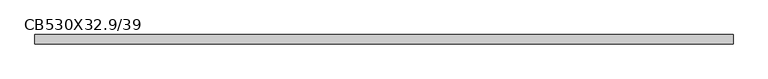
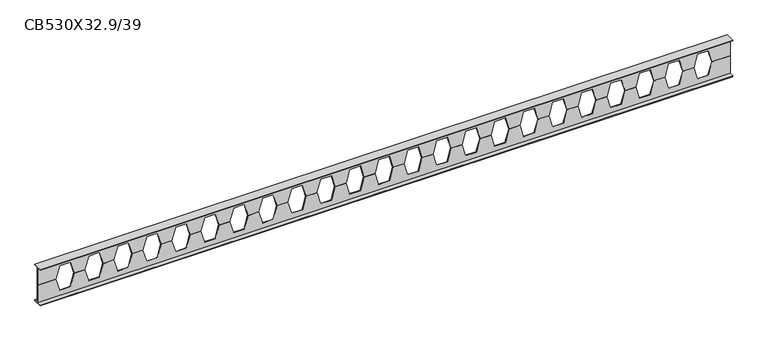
"""IFC4 building model written with IfcOpenShell, lengths in millimetres: beam geometry, Poutre alvéolaire : CB530X32.9/39."""

from ifc_helpers import new_model, si_unit, origin, place, context, project, spatial, faceted_brep, source, transform, mapped, element, save


def cb530x32_9_39_fc9b2e57(model_context):
    return source(origin(), model_context, "Body", "Brep", [
        faceted_brep([(4794.5, 64.0, -255.8), (4794.5, 3.25, -255.8), (4794.5, 3.25, 0.0), (4794.5, -3.25, 0.0), (4794.5, -3.25, -255.8), (4794.5, -64.0, -255.8), (4794.5, -64.0, -266.5), (4794.5, 64.0, -266.5), (-4794.5, 3.25, -255.8), (-4794.5, 64.0, -255.8), (-4794.5, 64.0, -266.5), (-4794.5, -64.0, -266.5), (-4794.5, -64.0, -255.8), (-4794.5, -3.25, -255.8), (-4794.5, -3.25, 0.0), (-4794.5, 3.25, 0.0), (-4543.4, 3.25, 0.0), (-4492.6, 3.25, -180.0), (-4342.6, 3.25, -180.0), (-4291.8, 3.25, 0.0), (-4141.8, 3.25, 0.0), (-4091.0, 3.25, -180.0), (-3941.0, 3.25, -180.0), (-3890.2, 3.25, 0.0), (-3740.2, 3.25, 0.0), (-3689.4, 3.25, -180.0), (-3539.4, 3.25, -180.0), (-3488.6, 3.25, 0.0), (-3338.6, 3.25, 0.0), (-3287.8, 3.25, -180.0), (-3137.8, 3.25, -180.0), (-3087.0, 3.25, 0.0), (-2937.0, 3.25, 0.0), (-2886.2, 3.25, -180.0), (-2736.2, 3.25, -180.0), (-2685.4, 3.25, 0.0), (-2535.4, 3.25, 0.0), (-2484.6, 3.25, -180.0), (-2334.6, 3.25, -180.0), (-2283.8, 3.25, 0.0), (-2133.8, 3.25, 0.0), (-2083.0, 3.25, -180.0), (-1933.0, 3.25, -180.0), (-1882.2, 3.25, 0.0), (-1732.2, 3.25, 0.0), (-1681.4, 3.25, -180.0), (-1531.4, 3.25, -180.0), (-1480.6, 3.25, 0.0), (-1330.6, 3.25, 0.0), (-1279.8, 3.25, -180.0), (-1129.8, 3.25, -180.0), (-1079.0, 3.25, 0.0), (-929.0, 3.25, 0.0), (-878.2, 3.25, -180.0), (-728.2, 3.25, -180.0), (-677.4, 3.25, 0.0), (-527.4, 3.25, 0.0), (-476.6, 3.25, -180.0), (-326.6, 3.25, -180.0), (-275.8, 3.25, 0.0), (-125.8, 3.25, 0.0), (-75.0, 3.25, -180.0), (75.0, 3.25, -180.0), (125.8, 3.25, 0.0), (275.8, 3.25, 0.0), (326.6, 3.25, -180.0), (476.6, 3.25, -180.0), (527.4, 3.25, 0.0), (677.4, 3.25, 0.0), (728.2, 3.25, -180.0), (878.2, 3.25, -180.0), (929.0, 3.25, 0.0), (1079.0, 3.25, 0.0), (1129.8, 3.25, -180.0), (1279.8, 3.25, -180.0), (1330.6, 3.25, 0.0), (1480.6, 3.25, 0.0), (1531.4, 3.25, -180.0), (1681.4, 3.25, -180.0), (1732.2, 3.25, 0.0), (1882.2, 3.25, 0.0), (1933.0, 3.25, -180.0), (2083.0, 3.25, -180.0), (2133.8, 3.25, 0.0), (2283.8, 3.25, 0.0), (2334.6, 3.25, -180.0), (2484.6, 3.25, -180.0), (2535.4, 3.25, 0.0), (2685.4, 3.25, 0.0), (2736.2, 3.25, -180.0), (2886.2, 3.25, -180.0), (2937.0, 3.25, 0.0), (3087.0, 3.25, 0.0), (3137.8, 3.25, -180.0), (3287.8, 3.25, -180.0), (3338.6, 3.25, 0.0), (3488.6, 3.25, 0.0), (3539.4, 3.25, -180.0), (3689.4, 3.25, -180.0), (3740.2, 3.25, 0.0), (3890.2, 3.25, 0.0), (3941.0, 3.25, -180.0), (4091.0, 3.25, -180.0), (4141.8, 3.25, 0.0), (4291.8, 3.25, 0.0), (4342.6, 3.25, -180.0), (4492.6, 3.25, -180.0), (4543.4, 3.25, 0.0), (4543.4, -3.25, 0.0), (-4543.4, -3.25, 0.0), (-4141.8, -3.25, 0.0), (-4291.8, -3.25, 0.0), (-3890.2, -3.25, 0.0), (-3740.2, -3.25, 0.0), (4291.8, -3.25, 0.0), (4141.8, -3.25, 0.0), (-3488.6, -3.25, 0.0), (-3338.6, -3.25, 0.0), (-3087.0, -3.25, 0.0), (-2937.0, -3.25, 0.0), (-2685.4, -3.25, 0.0), (-2535.4, -3.25, 0.0), (-2283.8, -3.25, 0.0), (-2133.8, -3.25, 0.0), (-1882.2, -3.25, 0.0), (-1732.2, -3.25, 0.0), (-1480.6, -3.25, 0.0), (-1330.6, -3.25, 0.0), (-1079.0, -3.25, 0.0), (-929.0, -3.25, 0.0), (-677.4, -3.25, 0.0), (-527.4, -3.25, 0.0), (-275.8, -3.25, 0.0), (-125.8, -3.25, 0.0), (125.8, -3.25, 0.0), (275.8, -3.25, 0.0), (527.4, -3.25, 0.0), (677.4, -3.25, 0.0), (929.0, -3.25, 0.0), (1079.0, -3.25, 0.0), (1330.6, -3.25, 0.0), (1480.6, -3.25, 0.0), (1732.2, -3.25, 0.0), (1882.2, -3.25, 0.0), (2133.8, -3.25, 0.0), (2283.8, -3.25, 0.0), (2535.4, -3.25, 0.0), (2685.4, -3.25, 0.0), (2937.0, -3.25, 0.0), (3087.0, -3.25, 0.0), (3338.6, -3.25, 0.0), (3488.6, -3.25, 0.0), (3740.2, -3.25, 0.0), (3890.2, -3.25, 0.0), (4492.6, -3.25, -180.0), (4342.6, -3.25, -180.0), (4091.0, -3.25, -180.0), (3941.0, -3.25, -180.0), (3689.4, -3.25, -180.0), (3539.4, -3.25, -180.0), (3287.8, -3.25, -180.0), (3137.8, -3.25, -180.0), (2886.2, -3.25, -180.0), (2736.2, -3.25, -180.0), (2484.6, -3.25, -180.0), (2334.6, -3.25, -180.0), (2083.0, -3.25, -180.0), (1933.0, -3.25, -180.0), (1681.4, -3.25, -180.0), (1531.4, -3.25, -180.0), (1279.8, -3.25, -180.0), (1129.8, -3.25, -180.0), (878.2, -3.25, -180.0), (728.2, -3.25, -180.0), (476.6, -3.25, -180.0), (326.6, -3.25, -180.0), (75.0, -3.25, -180.0), (-75.0, -3.25, -180.0), (-326.6, -3.25, -180.0), (-476.6, -3.25, -180.0), (-728.2, -3.25, -180.0), (-878.2, -3.25, -180.0), (-1129.8, -3.25, -180.0), (-1279.8, -3.25, -180.0), (-1531.4, -3.25, -180.0), (-1681.4, -3.25, -180.0), (-1933.0, -3.25, -180.0), (-2083.0, -3.25, -180.0), (-2334.6, -3.25, -180.0), (-2484.6, -3.25, -180.0), (-2736.2, -3.25, -180.0), (-2886.2, -3.25, -180.0), (-3137.8, -3.25, -180.0), (-3287.8, -3.25, -180.0), (-3539.4, -3.25, -180.0), (-3689.4, -3.25, -180.0), (-3941.0, -3.25, -180.0), (-4091.0, -3.25, -180.0), (-4342.6, -3.25, -180.0), (-4492.6, -3.25, -180.0)], [[[0, 1, 2, 3, 4, 5, 6, 7]], [[8, 9, 10, 11, 12, 13, 14, 15]], [[1, 0, 9, 8]], [[2, 1, 8, 15, 16, 17, 18, 19, 20, 21, 22, 23, 24, 25, 26, 27, 28, 29, 30, 31, 32, 33, 34, 35, 36, 37, 38, 39, 40, 41, 42, 43, 44, 45, 46, 47, 48, 49, 50, 51, 52, 53, 54, 55, 56, 57, 58, 59, 60, 61, 62, 63, 64, 65, 66, 67, 68, 69, 70, 71, 72, 73, 74, 75, 76, 77, 78, 79, 80, 81, 82, 83, 84, 85, 86, 87, 88, 89, 90, 91, 92, 93, 94, 95, 96, 97, 98, 99, 100, 101, 102, 103, 104, 105, 106, 107]], [[3, 2, 107, 108]], [[15, 14, 109, 16]], [[110, 20, 19, 111]], [[23, 112, 113, 24]], [[114, 104, 103, 115]], [[27, 116, 117, 28]], [[31, 118, 119, 32]], [[35, 120, 121, 36]], [[39, 122, 123, 40]], [[43, 124, 125, 44]], [[47, 126, 127, 48]], [[51, 128, 129, 52]], [[55, 130, 131, 56]], [[59, 132, 133, 60]], [[63, 134, 135, 64]], [[67, 136, 137, 68]], [[71, 138, 139, 72]], [[75, 140, 141, 76]], [[79, 142, 143, 80]], [[83, 144, 145, 84]], [[87, 146, 147, 88]], [[91, 148, 149, 92]], [[95, 150, 151, 96]], [[99, 152, 153, 100]], [[4, 3, 108, 154, 155, 114, 115, 156, 157, 153, 152, 158, 159, 151, 150, 160, 161, 149, 148, 162, 163, 147, 146, 164, 165, 145, 144, 166, 167, 143, 142, 168, 169, 141, 140, 170, 171, 139, 138, 172, 173, 137, 136, 174, 175, 135, 134, 176, 177, 133, 132, 178, 179, 131, 130, 180, 181, 129, 128, 182, 183, 127, 126, 184, 185, 125, 124, 186, 187, 123, 122, 188, 189, 121, 120, 190, 191, 119, 118, 192, 193, 117, 116, 194, 195, 113, 112, 196, 197, 110, 111, 198, 199, 109, 14, 13]], [[5, 4, 13, 12]], [[6, 5, 12, 11]], [[7, 6, 11, 10]], [[0, 7, 10, 9]], [[197, 21, 20, 110]], [[21, 197, 196, 22]], [[22, 196, 112, 23]], [[155, 105, 104, 114]], [[105, 155, 154, 106]], [[106, 154, 108, 107]], [[199, 17, 16, 109]], [[17, 199, 198, 18]], [[18, 198, 111, 19]], [[195, 25, 24, 113]], [[25, 195, 194, 26]], [[26, 194, 116, 27]], [[193, 29, 28, 117]], [[29, 193, 192, 30]], [[30, 192, 118, 31]], [[191, 33, 32, 119]], [[33, 191, 190, 34]], [[34, 190, 120, 35]], [[189, 37, 36, 121]], [[37, 189, 188, 38]], [[38, 188, 122, 39]], [[187, 41, 40, 123]], [[41, 187, 186, 42]], [[42, 186, 124, 43]], [[185, 45, 44, 125]], [[45, 185, 184, 46]], [[46, 184, 126, 47]], [[183, 49, 48, 127]], [[49, 183, 182, 50]], [[50, 182, 128, 51]], [[181, 53, 52, 129]], [[53, 181, 180, 54]], [[54, 180, 130, 55]], [[179, 57, 56, 131]], [[57, 179, 178, 58]], [[58, 178, 132, 59]], [[177, 61, 60, 133]], [[61, 177, 176, 62]], [[62, 176, 134, 63]], [[175, 65, 64, 135]], [[65, 175, 174, 66]], [[66, 174, 136, 67]], [[173, 69, 68, 137]], [[69, 173, 172, 70]], [[70, 172, 138, 71]], [[171, 73, 72, 139]], [[73, 171, 170, 74]], [[74, 170, 140, 75]], [[169, 77, 76, 141]], [[77, 169, 168, 78]], [[78, 168, 142, 79]], [[167, 81, 80, 143]], [[81, 167, 166, 82]], [[82, 166, 144, 83]], [[165, 85, 84, 145]], [[85, 165, 164, 86]], [[86, 164, 146, 87]], [[163, 89, 88, 147]], [[89, 163, 162, 90]], [[90, 162, 148, 91]], [[161, 93, 92, 149]], [[93, 161, 160, 94]], [[94, 160, 150, 95]], [[159, 97, 96, 151]], [[97, 159, 158, 98]], [[98, 158, 152, 99]], [[157, 101, 100, 153]], [[101, 157, 156, 102]], [[102, 156, 115, 103]]]),
        faceted_brep([(4794.5, 2.9, 0.0), (4794.5, 2.9, 256.0), (4794.5, 63.5, 256.0), (4794.5, 63.5, 264.5), (4794.5, -63.5, 264.5), (4794.5, -63.5, 256.0), (4794.5, -2.9, 256.0), (4794.5, -2.9, 0.0), (-4794.5, 2.9, 256.0), (-4794.5, 2.9, 0.0), (-4794.5, -2.9, 0.0), (-4794.5, -2.9, 256.0), (-4794.5, -63.5, 256.0), (-4794.5, -63.5, 264.5), (-4794.5, 63.5, 264.5), (-4794.5, 63.5, 256.0), (4543.4, 2.9, 0.0), (4492.6, 2.9, 180.0), (4342.6, 2.9, 180.0), (4291.8, 2.9, 0.0), (4141.8, 2.9, 0.0), (4091.0, 2.9, 180.0), (3941.0, 2.9, 180.0), (3890.2, 2.9, 0.0), (3740.2, 2.9, 0.0), (3689.4, 2.9, 180.0), (3539.4, 2.9, 180.0), (3488.6, 2.9, 0.0), (3338.6, 2.9, 0.0), (3287.8, 2.9, 180.0), (3137.8, 2.9, 180.0), (3087.0, 2.9, 0.0), (2937.0, 2.9, 0.0), (2886.2, 2.9, 180.0), (2736.2, 2.9, 180.0), (2685.4, 2.9, 0.0), (2535.4, 2.9, 0.0), (2484.6, 2.9, 180.0), (2334.6, 2.9, 180.0), (2283.8, 2.9, 0.0), (2133.8, 2.9, 0.0), (2083.0, 2.9, 180.0), (1933.0, 2.9, 180.0), (1882.2, 2.9, 0.0), (1732.2, 2.9, 0.0), (1681.4, 2.9, 180.0), (1531.4, 2.9, 180.0), (1480.6, 2.9, 0.0), (1330.6, 2.9, 0.0), (1279.8, 2.9, 180.0), (1129.8, 2.9, 180.0), (1079.0, 2.9, 0.0), (929.0, 2.9, 0.0), (878.2, 2.9, 180.0), (728.2, 2.9, 180.0), (677.4, 2.9, 0.0), (527.4, 2.9, 0.0), (476.6, 2.9, 180.0), (326.6, 2.9, 180.0), (275.8, 2.9, 0.0), (125.8, 2.9, 0.0), (75.0, 2.9, 180.0), (-75.0, 2.9, 180.0), (-125.8, 2.9, 0.0), (-275.8, 2.9, 0.0), (-326.6, 2.9, 180.0), (-476.6, 2.9, 180.0), (-527.4, 2.9, 0.0), (-677.4, 2.9, 0.0), (-728.2, 2.9, 180.0), (-878.2, 2.9, 180.0), (-929.0, 2.9, 0.0), (-1079.0, 2.9, 0.0), (-1129.8, 2.9, 180.0), (-1279.8, 2.9, 180.0), (-1330.6, 2.9, 0.0), (-1480.6, 2.9, 0.0), (-1531.4, 2.9, 180.0), (-1681.4, 2.9, 180.0), (-1732.2, 2.9, 0.0), (-1882.2, 2.9, 0.0), (-1933.0, 2.9, 180.0), (-2083.0, 2.9, 180.0), (-2133.8, 2.9, 0.0), (-2283.8, 2.9, 0.0), (-2334.6, 2.9, 180.0), (-2484.6, 2.9, 180.0), (-2535.4, 2.9, 0.0), (-2685.4, 2.9, 0.0), (-2736.2, 2.9, 180.0), (-2886.2, 2.9, 180.0), (-2937.0, 2.9, 0.0), (-3087.0, 2.9, 0.0), (-3137.8, 2.9, 180.0), (-3287.8, 2.9, 180.0), (-3338.6, 2.9, 0.0), (-3488.6, 2.9, 0.0), (-3539.4, 2.9, 180.0), (-3689.4, 2.9, 180.0), (-3740.2, 2.9, 0.0), (-3890.2, 2.9, 0.0), (-3941.0, 2.9, 180.0), (-4091.0, 2.9, 180.0), (-4141.8, 2.9, 0.0), (-4291.8, 2.9, 0.0), (-4342.6, 2.9, 180.0), (-4492.6, 2.9, 180.0), (-4543.4, 2.9, 0.0), (-4543.4, -2.9, 0.0), (-4492.6, -2.9, 180.0), (-4342.6, -2.9, 180.0), (-4291.8, -2.9, 0.0), (-4141.8, -2.9, 0.0), (-4091.0, -2.9, 180.0), (-3941.0, -2.9, 180.0), (-3890.2, -2.9, 0.0), (-3740.2, -2.9, 0.0), (-3689.4, -2.9, 180.0), (-3539.4, -2.9, 180.0), (-3488.6, -2.9, 0.0), (-3338.6, -2.9, 0.0), (-3287.8, -2.9, 180.0), (-3137.8, -2.9, 180.0), (-3087.0, -2.9, 0.0), (-2937.0, -2.9, 0.0), (-2886.2, -2.9, 180.0), (-2736.2, -2.9, 180.0), (-2685.4, -2.9, 0.0), (-2535.4, -2.9, 0.0), (-2484.6, -2.9, 180.0), (-2334.6, -2.9, 180.0), (-2283.8, -2.9, 0.0), (-2133.8, -2.9, 0.0), (-2083.0, -2.9, 180.0), (-1933.0, -2.9, 180.0), (-1882.2, -2.9, 0.0), (-1732.2, -2.9, 0.0), (-1681.4, -2.9, 180.0), (-1531.4, -2.9, 180.0), (-1480.6, -2.9, 0.0), (-1330.6, -2.9, 0.0), (-1279.8, -2.9, 180.0), (-1129.8, -2.9, 180.0), (-1079.0, -2.9, 0.0), (-929.0, -2.9, 0.0), (-878.2, -2.9, 180.0), (-728.2, -2.9, 180.0), (-677.4, -2.9, 0.0), (-527.4, -2.9, 0.0), (-476.6, -2.9, 180.0), (-326.6, -2.9, 180.0), (-275.8, -2.9, 0.0), (-125.8, -2.9, 0.0), (-75.0, -2.9, 180.0), (75.0, -2.9, 180.0), (125.8, -2.9, 0.0), (275.8, -2.9, 0.0), (326.6, -2.9, 180.0), (476.6, -2.9, 180.0), (527.4, -2.9, 0.0), (677.4, -2.9, 0.0), (728.2, -2.9, 180.0), (878.2, -2.9, 180.0), (929.0, -2.9, 0.0), (1079.0, -2.9, 0.0), (1129.8, -2.9, 180.0), (1279.8, -2.9, 180.0), (1330.6, -2.9, 0.0), (1480.6, -2.9, 0.0), (1531.4, -2.9, 180.0), (1681.4, -2.9, 180.0), (1732.2, -2.9, 0.0), (1882.2, -2.9, 0.0), (1933.0, -2.9, 180.0), (2083.0, -2.9, 180.0), (2133.8, -2.9, 0.0), (2283.8, -2.9, 0.0), (2334.6, -2.9, 180.0), (2484.6, -2.9, 180.0), (2535.4, -2.9, 0.0), (2685.4, -2.9, 0.0), (2736.2, -2.9, 180.0), (2886.2, -2.9, 180.0), (2937.0, -2.9, 0.0), (3087.0, -2.9, 0.0), (3137.8, -2.9, 180.0), (3287.8, -2.9, 180.0), (3338.6, -2.9, 0.0), (3488.6, -2.9, 0.0), (3539.4, -2.9, 180.0), (3689.4, -2.9, 180.0), (3740.2, -2.9, 0.0), (3890.2, -2.9, 0.0), (3941.0, -2.9, 180.0), (4091.0, -2.9, 180.0), (4141.8, -2.9, 0.0), (4291.8, -2.9, 0.0), (4342.6, -2.9, 180.0), (4492.6, -2.9, 180.0), (4543.4, -2.9, 0.0)], [[[0, 1, 2, 3, 4, 5, 6, 7]], [[8, 9, 10, 11, 12, 13, 14, 15]], [[1, 0, 16, 17, 18, 19, 20, 21, 22, 23, 24, 25, 26, 27, 28, 29, 30, 31, 32, 33, 34, 35, 36, 37, 38, 39, 40, 41, 42, 43, 44, 45, 46, 47, 48, 49, 50, 51, 52, 53, 54, 55, 56, 57, 58, 59, 60, 61, 62, 63, 64, 65, 66, 67, 68, 69, 70, 71, 72, 73, 74, 75, 76, 77, 78, 79, 80, 81, 82, 83, 84, 85, 86, 87, 88, 89, 90, 91, 92, 93, 94, 95, 96, 97, 98, 99, 100, 101, 102, 103, 104, 105, 106, 107, 9, 8]], [[2, 1, 8, 15]], [[3, 2, 15, 14]], [[4, 3, 14, 13]], [[5, 4, 13, 12]], [[6, 5, 12, 11]], [[7, 6, 11, 10, 108, 109, 110, 111, 112, 113, 114, 115, 116, 117, 118, 119, 120, 121, 122, 123, 124, 125, 126, 127, 128, 129, 130, 131, 132, 133, 134, 135, 136, 137, 138, 139, 140, 141, 142, 143, 144, 145, 146, 147, 148, 149, 150, 151, 152, 153, 154, 155, 156, 157, 158, 159, 160, 161, 162, 163, 164, 165, 166, 167, 168, 169, 170, 171, 172, 173, 174, 175, 176, 177, 178, 179, 180, 181, 182, 183, 184, 185, 186, 187, 188, 189, 190, 191, 192, 193, 194, 195, 196, 197, 198, 199]], [[0, 7, 199, 16]], [[10, 9, 107, 108]], [[103, 112, 111, 104]], [[115, 100, 99, 116]], [[19, 196, 195, 20]], [[119, 96, 95, 120]], [[123, 92, 91, 124]], [[127, 88, 87, 128]], [[131, 84, 83, 132]], [[135, 80, 79, 136]], [[139, 76, 75, 140]], [[143, 72, 71, 144]], [[147, 68, 67, 148]], [[151, 64, 63, 152]], [[155, 60, 59, 156]], [[159, 56, 55, 160]], [[163, 52, 51, 164]], [[167, 48, 47, 168]], [[171, 44, 43, 172]], [[175, 40, 39, 176]], [[179, 36, 35, 180]], [[183, 32, 31, 184]], [[187, 28, 27, 188]], [[191, 24, 23, 192]], [[102, 113, 112, 103]], [[113, 102, 101, 114]], [[114, 101, 100, 115]], [[18, 197, 196, 19]], [[197, 18, 17, 198]], [[198, 17, 16, 199]], [[106, 109, 108, 107]], [[109, 106, 105, 110]], [[110, 105, 104, 111]], [[98, 117, 116, 99]], [[117, 98, 97, 118]], [[118, 97, 96, 119]], [[94, 121, 120, 95]], [[121, 94, 93, 122]], [[122, 93, 92, 123]], [[90, 125, 124, 91]], [[125, 90, 89, 126]], [[126, 89, 88, 127]], [[86, 129, 128, 87]], [[129, 86, 85, 130]], [[130, 85, 84, 131]], [[82, 133, 132, 83]], [[133, 82, 81, 134]], [[134, 81, 80, 135]], [[78, 137, 136, 79]], [[137, 78, 77, 138]], [[138, 77, 76, 139]], [[74, 141, 140, 75]], [[141, 74, 73, 142]], [[142, 73, 72, 143]], [[70, 145, 144, 71]], [[145, 70, 69, 146]], [[146, 69, 68, 147]], [[66, 149, 148, 67]], [[149, 66, 65, 150]], [[150, 65, 64, 151]], [[62, 153, 152, 63]], [[153, 62, 61, 154]], [[154, 61, 60, 155]], [[58, 157, 156, 59]], [[157, 58, 57, 158]], [[158, 57, 56, 159]], [[54, 161, 160, 55]], [[161, 54, 53, 162]], [[162, 53, 52, 163]], [[50, 165, 164, 51]], [[165, 50, 49, 166]], [[166, 49, 48, 167]], [[46, 169, 168, 47]], [[169, 46, 45, 170]], [[170, 45, 44, 171]], [[42, 173, 172, 43]], [[173, 42, 41, 174]], [[174, 41, 40, 175]], [[38, 177, 176, 39]], [[177, 38, 37, 178]], [[178, 37, 36, 179]], [[34, 181, 180, 35]], [[181, 34, 33, 182]], [[182, 33, 32, 183]], [[30, 185, 184, 31]], [[185, 30, 29, 186]], [[186, 29, 28, 187]], [[26, 189, 188, 27]], [[189, 26, 25, 190]], [[190, 25, 24, 191]], [[22, 193, 192, 23]], [[193, 22, 21, 194]], [[194, 21, 20, 195]]]),
    ])


if __name__ == "__main__":
    model = new_model("IFC4")
    model_context = context("Model", 3, world=origin())
    ifc_project = project(units=[si_unit("LENGTHUNIT", "METRE", prefix="MILLI")], contexts=[model_context])
    site = spatial("IfcSite", under=ifc_project)
    building = spatial("IfcBuilding", under=site)
    placement = place(None, origin())
    cb530x32_9_39_shape = cb530x32_9_39_fc9b2e57(model_context)
    element("IfcBeam", 1, ObjectType="Poutre alvéolaire : CB530X32.9/39", at=placement, inside=building, context=model_context, shape_type="MappedRepresentation", body=[
        mapped(cb530x32_9_39_shape, transform((0.0, 0.0, 0.0), x_axis=(1.0, 0.0, 0.0), y_axis=(0.0, 1.0, 0.0), z_axis=(0.0, 0.0, 1.0))),
    ])
    save(model, "model.ifc")
